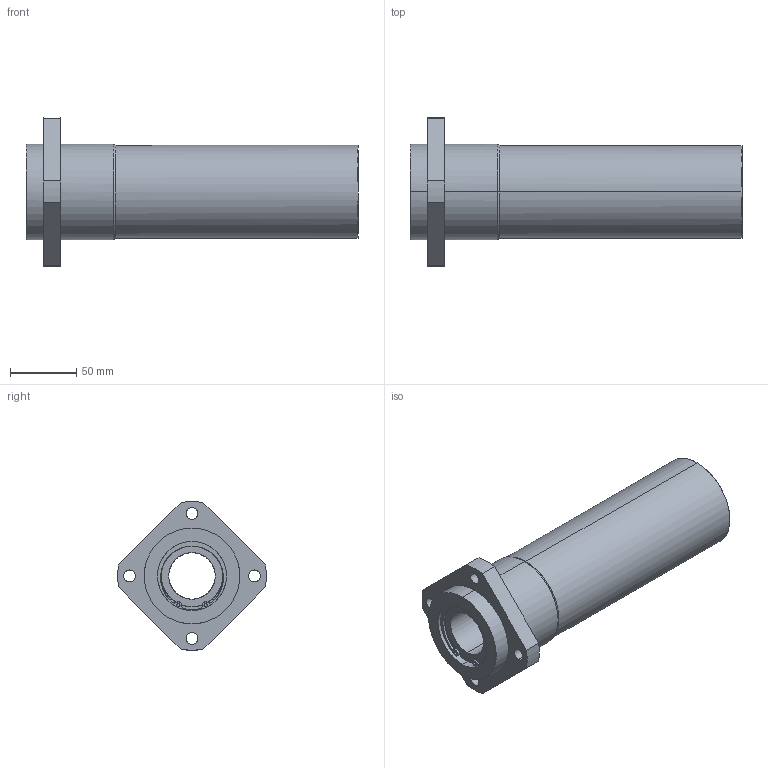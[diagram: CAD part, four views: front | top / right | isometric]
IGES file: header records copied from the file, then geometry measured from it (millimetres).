
Global section: file name: No Iges File Name specified; native system: AutoDesk Inventor R11.0; preprocessor: AutoDesk Inventor Iges Exporter R11.0; author: No Author specified; organization: No Organization specified; date: 20170922.140813; units: millimetre
Bounding box: 250 x 111.86 x 111.93 mm (x, y, z)
Surface area: 109564.2 mm2 (no closed solid volume)
Topology: 0 solids, 0 shells, 133 faces, 964 edges, 964 vertices
Faces by surface type: bspline 133
